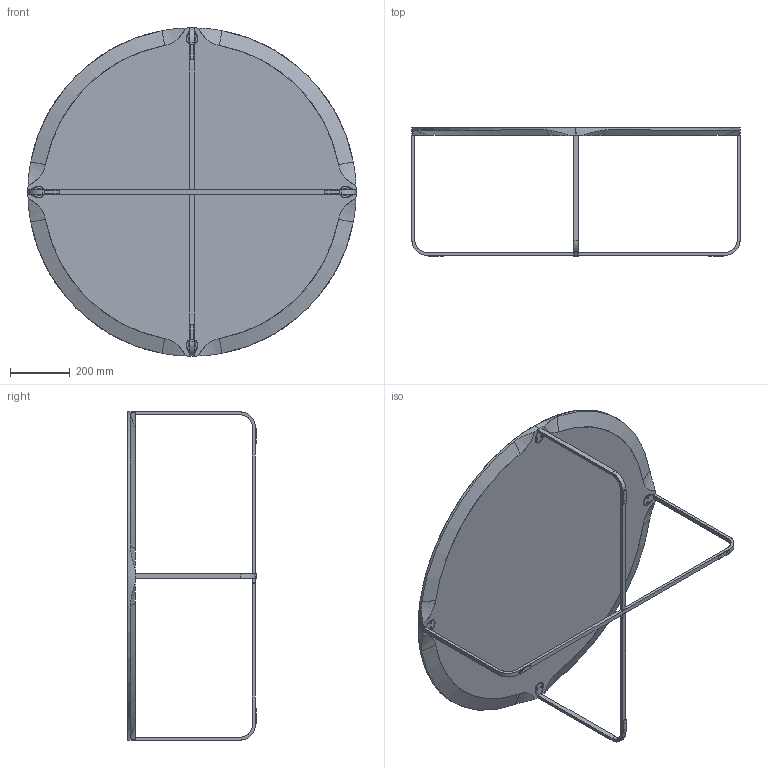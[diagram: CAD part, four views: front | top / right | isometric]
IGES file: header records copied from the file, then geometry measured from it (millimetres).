
Start section: SolidWorks IGES file using analytic representation for surfaces
Global section: file name: G:\CAD-FILES\3D Montis\3D_IGS\Flint tafel 1100-430.IGS; native system: SolidWorks 2007; preprocessor: SolidWorks 2007; author: gerard; date: 060929.090752; units: millimetre
Bounding box: 1100 x 430 x 1100 mm (x, y, z)
Surface area: 2143535.9 mm2 (no closed solid volume)
Topology: 0 solids, 0 shells, 162 faces, 2634 edges, 2634 vertices
Faces by surface type: revolution 93, bspline 69
